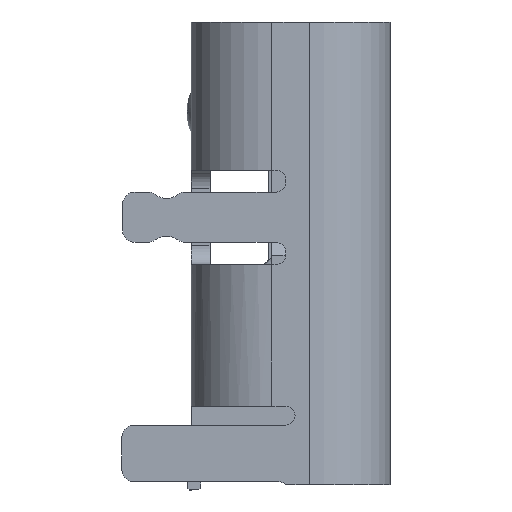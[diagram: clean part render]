
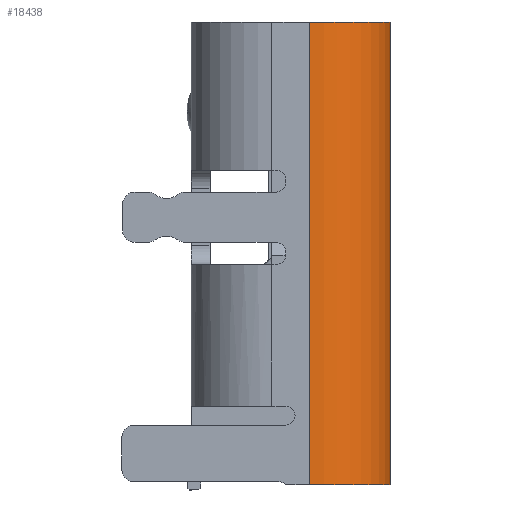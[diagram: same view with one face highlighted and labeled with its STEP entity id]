
A CAD part, left-side view. The second image highlights one B-rep face of the part: STEP entity #18438.
In plain terms, the highlighted cylindrical face has radius 1.28 mm (diameter 2.56 mm), a partial arc.
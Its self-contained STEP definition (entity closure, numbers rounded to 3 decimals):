
#920 = ORIENTED_EDGE ( 'NONE', *, *, #9168, .F. ) ;
#1087 = ORIENTED_EDGE ( 'NONE', *, *, #9112, .F. ) ;
#1502 = ORIENTED_EDGE ( 'NONE', *, *, #9065, .F. ) ;
#1590 = ORIENTED_EDGE ( 'NONE', *, *, #9030, .T. ) ;
#1923 = EDGE_LOOP ( 'NONE', ( #1590, #1502, #1087, #920 ) ) ;
#5226 = CYLINDRICAL_SURFACE ( 'NONE', #18060, 1.28 ) ;
#5698 = FACE_OUTER_BOUND ( 'NONE', #1923, .T. ) ;
#8024 = DIRECTION ( 'NONE',  ( 1., 0., 0. ) ) ;
#9030 = EDGE_CURVE ( 'NONE', #12896, #16093, #12348, .T. ) ;
#9065 = EDGE_CURVE ( 'NONE', #17082, #16093, #12207, .T. ) ;
#9112 = EDGE_CURVE ( 'NONE', #17598, #17082, #12082, .T. ) ;
#9168 = EDGE_CURVE ( 'NONE', #12896, #17598, #11666, .T. ) ;
#9241 = DIRECTION ( 'NONE',  ( 0., -1., 0. ) ) ;
#11666 = CIRCLE ( 'NONE', #16018, 1.28 ) ;
#11884 = VECTOR ( 'NONE', #13388, 1000. ) ;
#12082 = LINE ( 'NONE', #13474, #11884 ) ;
#12207 = CIRCLE ( 'NONE', #16163, 1.28 ) ;
#12263 = VECTOR ( 'NONE', #14245, 1000. ) ;
#12348 = LINE ( 'NONE', #14173, #12263 ) ;
#12655 = DIRECTION ( 'NONE',  ( 1., 0., 0. ) ) ;
#12658 = DIRECTION ( 'NONE',  ( 0., 1., 0. ) ) ;
#12677 = CARTESIAN_POINT ( 'NONE',  ( 3.19, 6.85, -1.28 ) ) ;
#12896 = VERTEX_POINT ( 'NONE', #15110 ) ;
#13173 = CARTESIAN_POINT ( 'NONE',  ( 3.19, 10.508, -1.28 ) ) ;
#13388 = DIRECTION ( 'NONE',  ( 0., -1., 0. ) ) ;
#13415 = CARTESIAN_POINT ( 'NONE',  ( 4.47, -0.5, -1.28 ) ) ;
#13474 = CARTESIAN_POINT ( 'NONE',  ( 4.47, 6.85, -1.28 ) ) ;
#13618 = DIRECTION ( 'NONE',  ( 1., 0., 0. ) ) ;
#13622 = DIRECTION ( 'NONE',  ( 0., -1., 0. ) ) ;
#13639 = CARTESIAN_POINT ( 'NONE',  ( 3.19, -0.5, -1.28 ) ) ;
#14173 = CARTESIAN_POINT ( 'NONE',  ( 3.19, 6.85, 0. ) ) ;
#14245 = DIRECTION ( 'NONE',  ( 0., -1., 0. ) ) ;
#15110 = CARTESIAN_POINT ( 'NONE',  ( 3.19, 6.85, 0. ) ) ;
#15519 = CARTESIAN_POINT ( 'NONE',  ( 4.47, 6.85, -1.28 ) ) ;
#16018 = AXIS2_PLACEMENT_3D ( 'NONE', #12677, #12658, #12655 ) ;
#16093 = VERTEX_POINT ( 'NONE', #17738 ) ;
#16163 = AXIS2_PLACEMENT_3D ( 'NONE', #13639, #13622, #13618 ) ;
#17082 = VERTEX_POINT ( 'NONE', #13415 ) ;
#17598 = VERTEX_POINT ( 'NONE', #15519 ) ;
#17738 = CARTESIAN_POINT ( 'NONE',  ( 3.19, -0.5, 0. ) ) ;
#18060 = AXIS2_PLACEMENT_3D ( 'NONE', #13173, #9241, #8024 ) ;
#18438 = ADVANCED_FACE ( 'NONE', ( #5698 ), #5226, .T. ) ;
